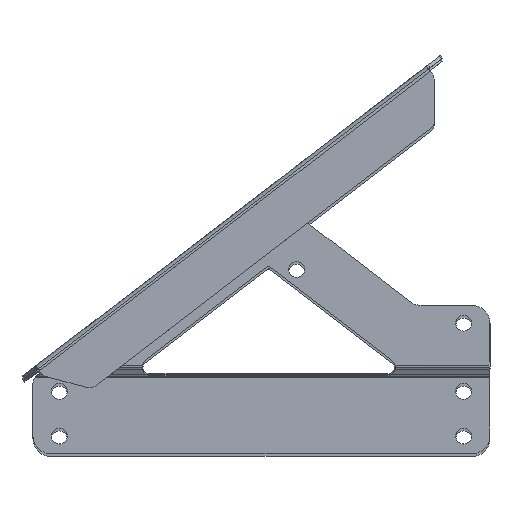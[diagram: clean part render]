
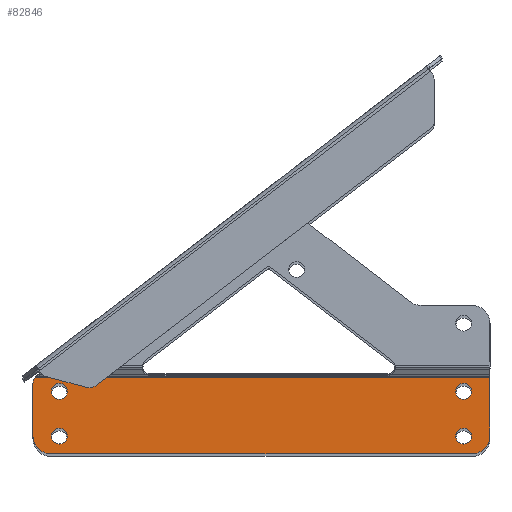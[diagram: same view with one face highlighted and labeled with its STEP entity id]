
A CAD part, top view. The second image highlights one B-rep face of the part: STEP entity #82846.
In plain terms, the highlighted planar face has unit normal (0, 0, 1) as drawn and (-0.609, 0.793, 0) by its records, which use the part's own axes.
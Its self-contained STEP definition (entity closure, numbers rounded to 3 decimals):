
#3217 = EDGE_CURVE ( 'NONE', #75387, #278631, #303798, .T. ) ;
#3917 = CARTESIAN_POINT ( 'NONE',  ( 18.177, 161.683, 158.123 ) ) ;
#4016 = CARTESIAN_POINT ( 'NONE',  ( -131.448, 46.872, 3.518 ) ) ;
#7586 = DIRECTION ( 'NONE',  ( 0.629, 0.483, 0.609 ) ) ;
#7804 = CIRCLE ( 'NONE', #271225, 10. ) ;
#8985 = EDGE_CURVE ( 'NONE', #341011, #370076, #367544, .T. ) ;
#9489 = ORIENTED_EDGE ( 'NONE', *, *, #166107, .T. ) ;
#12393 = CARTESIAN_POINT ( 'NONE',  ( 0.525, 148.138, 131.161 ) ) ;
#12731 = DIRECTION ( 'NONE',  ( 0.629, 0.483, 0.609 ) ) ;
#13067 = CARTESIAN_POINT ( 'NONE',  ( 100.825, 225.101, -33.599 ) ) ;
#14898 = AXIS2_PLACEMENT_3D ( 'NONE', #128105, #54786, #195487 ) ;
#15879 = CARTESIAN_POINT ( 'NONE',  ( 15.302, 159.477, 187.485 ) ) ;
#25945 = DIRECTION ( 'NONE',  ( 0.629, 0.483, 0.609 ) ) ;
#26621 = CARTESIAN_POINT ( 'NONE',  ( -141.735, 38.978, 35.599 ) ) ;
#28999 = ORIENTED_EDGE ( 'NONE', *, *, #363827, .F. ) ;
#31922 = AXIS2_PLACEMENT_3D ( 'NONE', #161288, #131252, #155718 ) ;
#38940 = CIRCLE ( 'NONE', #182774, 4.5 ) ;
#40007 = AXIS2_PLACEMENT_3D ( 'NONE', #268461, #240289, #326616 ) ;
#44408 = LINE ( 'NONE', #185163, #124198 ) ;
#46776 = PLANE ( 'NONE',  #49159 ) ;
#49084 = CARTESIAN_POINT ( 'NONE',  ( -123.755, 52.774, 20.847 ) ) ;
#49159 = AXIS2_PLACEMENT_3D ( 'NONE', #13067, #157524, #215593 ) ;
#54786 = DIRECTION ( 'NONE',  ( -0.609, 0.793, 0. ) ) ;
#57783 = CARTESIAN_POINT ( 'NONE',  ( -126.588, 50.601, 18.108 ) ) ;
#58706 = VECTOR ( 'NONE', #299448, 1000. ) ;
#59673 = DIRECTION ( 'NONE',  ( -0.609, 0.793, 0. ) ) ;
#61906 = VERTEX_POINT ( 'NONE', #271059 ) ;
#65069 = EDGE_LOOP ( 'NONE', ( #262059, #28999 ) ) ;
#68672 = EDGE_LOOP ( 'NONE', ( #246750, #312845, #157541, #9489, #126854, #244024, #217746 ) ) ;
#72543 = DIRECTION ( 'NONE',  ( 0.629, 0.483, 0.609 ) ) ;
#74398 = DIRECTION ( 'NONE',  ( 0.629, 0.483, 0.609 ) ) ;
#75387 = VERTEX_POINT ( 'NONE', #211605 ) ;
#78502 = CARTESIAN_POINT ( 'NONE',  ( -142.05, 38.736, 35.294 ) ) ;
#82383 = EDGE_CURVE ( 'NONE', #220760, #258483, #210971, .T. ) ;
#82635 = CIRCLE ( 'NONE', #106781, 4.5 ) ;
#82846 = ADVANCED_FACE ( 'NONE', ( #189330, #101220, #183828, #300021, #127505 ), #46776, .T. ) ;
#86619 = ORIENTED_EDGE ( 'NONE', *, *, #310702, .F. ) ;
#87730 = DIRECTION ( 'NONE',  ( 0.629, 0.483, 0.609 ) ) ;
#88758 = CIRCLE ( 'NONE', #136728, 4.5 ) ;
#93414 = CARTESIAN_POINT ( 'NONE',  ( -129.42, 48.428, 15.368 ) ) ;
#94194 = ORIENTED_EDGE ( 'NONE', *, *, #155175, .F. ) ;
#95876 = EDGE_CURVE ( 'NONE', #333122, #220760, #7804, .T. ) ;
#100285 = DIRECTION ( 'NONE',  ( 0.629, 0.483, 0.609 ) ) ;
#100783 = VERTEX_POINT ( 'NONE', #49084 ) ;
#101015 = EDGE_CURVE ( 'NONE', #214068, #108719, #193681, .T. ) ;
#101220 = FACE_BOUND ( 'NONE', #65069, .T. ) ;
#102483 = CARTESIAN_POINT ( 'NONE',  ( -133.841, 45.035, 5.383 ) ) ;
#106781 = AXIS2_PLACEMENT_3D ( 'NONE', #3917, #260864, #7586 ) ;
#108719 = VERTEX_POINT ( 'NONE', #237390 ) ;
#121421 = EDGE_LOOP ( 'NONE', ( #331917, #178109 ) ) ;
#122829 = CARTESIAN_POINT ( 'NONE',  ( 21.009, 163.856, 160.862 ) ) ;
#124198 = VECTOR ( 'NONE', #72543, 1000. ) ;
#126212 = CARTESIAN_POINT ( 'NONE',  ( 4.179, 150.941, 189.331 ) ) ;
#126854 = ORIENTED_EDGE ( 'NONE', *, *, #8985, .T. ) ;
#127505 = FACE_OUTER_BOUND ( 'NONE', #68672, .T. ) ;
#128105 = CARTESIAN_POINT ( 'NONE',  ( -138.903, 41.151, 38.338 ) ) ;
#129379 = EDGE_CURVE ( 'NONE', #108719, #214068, #82635, .T. ) ;
#131252 = DIRECTION ( 'NONE',  ( -0.609, 0.793, 0. ) ) ;
#131413 = EDGE_CURVE ( 'NONE', #218417, #61906, #257459, .T. ) ;
#136728 = AXIS2_PLACEMENT_3D ( 'NONE', #331395, #267704, #74398 ) ;
#137448 = AXIS2_PLACEMENT_3D ( 'NONE', #272750, #190244, #100285 ) ;
#140907 = VERTEX_POINT ( 'NONE', #93414 ) ;
#144105 = CARTESIAN_POINT ( 'NONE',  ( -126.588, 50.601, 18.108 ) ) ;
#147546 = CARTESIAN_POINT ( 'NONE',  ( 3.029, 150.059, 175.614 ) ) ;
#152834 = CIRCLE ( 'NONE', #14898, 4.5 ) ;
#155175 = EDGE_CURVE ( 'NONE', #311498, #210566, #88758, .T. ) ;
#155333 = CARTESIAN_POINT ( 'NONE',  ( -130.694, 47.45, 8.427 ) ) ;
#155718 = DIRECTION ( 'NONE',  ( 0.629, 0.483, 0.609 ) ) ;
#157524 = DIRECTION ( 'NONE',  ( -0.609, 0.793, 0. ) ) ;
#157541 = ORIENTED_EDGE ( 'NONE', *, *, #131413, .T. ) ;
#160300 = CARTESIAN_POINT ( 'NONE',  ( -136.071, 43.324, 41.077 ) ) ;
#161288 = CARTESIAN_POINT ( 'NONE',  ( 18.177, 161.683, 158.123 ) ) ;
#166017 = EDGE_CURVE ( 'NONE', #140907, #100783, #304212, .T. ) ;
#166107 = EDGE_CURVE ( 'NONE', #61906, #341011, #327610, .T. ) ;
#178109 = ORIENTED_EDGE ( 'NONE', *, *, #129379, .F. ) ;
#181670 = DIRECTION ( 'NONE',  ( -0.609, 0.793, 0. ) ) ;
#182774 = AXIS2_PLACEMENT_3D ( 'NONE', #144105, #59673, #25945 ) ;
#183828 = FACE_BOUND ( 'NONE', #369516, .T. ) ;
#184286 = AXIS2_PLACEMENT_3D ( 'NONE', #57783, #265808, #87730 ) ;
#185163 = CARTESIAN_POINT ( 'NONE',  ( -146.88, 35.03, 43.228 ) ) ;
#186513 = DIRECTION ( 'NONE',  ( 0.483, 0.371, -0.793 ) ) ;
#189330 = FACE_BOUND ( 'NONE', #121421, .T. ) ;
#190244 = DIRECTION ( 'NONE',  ( -0.609, 0.793, 0. ) ) ;
#193681 = CIRCLE ( 'NONE', #31922, 4.5 ) ;
#194795 = DIRECTION ( 'NONE',  ( -0.609, 0.793, 0. ) ) ;
#195487 = DIRECTION ( 'NONE',  ( 0.629, 0.483, 0.609 ) ) ;
#202058 = DIRECTION ( 'NONE',  ( 0.629, 0.483, 0.609 ) ) ;
#210566 = VERTEX_POINT ( 'NONE', #26621 ) ;
#210971 = LINE ( 'NONE', #323514, #216227 ) ;
#211605 = CARTESIAN_POINT ( 'NONE',  ( 8.693, 154.406, 181.093 ) ) ;
#214068 = VERTEX_POINT ( 'NONE', #122829 ) ;
#215593 = DIRECTION ( 'NONE',  ( 0.629, 0.483, 0.609 ) ) ;
#216227 = VECTOR ( 'NONE', #186513, 1000. ) ;
#217746 = ORIENTED_EDGE ( 'NONE', *, *, #95876, .T. ) ;
#217811 = AXIS2_PLACEMENT_3D ( 'NONE', #78502, #194795, #365493 ) ;
#218417 = VERTEX_POINT ( 'NONE', #4016 ) ;
#220760 = VERTEX_POINT ( 'NONE', #15879 ) ;
#222200 = ORIENTED_EDGE ( 'NONE', *, *, #166017, .F. ) ;
#229078 = EDGE_CURVE ( 'NONE', #210566, #311498, #152834, .T. ) ;
#233234 = CIRCLE ( 'NONE', #137448, 4.5 ) ;
#237390 = CARTESIAN_POINT ( 'NONE',  ( 15.344, 159.509, 155.383 ) ) ;
#238496 = CARTESIAN_POINT ( 'NONE',  ( -146.88, 35.03, 43.228 ) ) ;
#239475 = AXIS2_PLACEMENT_3D ( 'NONE', #155333, #181670, #12731 ) ;
#240289 = DIRECTION ( 'NONE',  ( -0.609, 0.793, 0. ) ) ;
#241198 = DIRECTION ( 'NONE',  ( -0.629, -0.483, -0.609 ) ) ;
#244024 = ORIENTED_EDGE ( 'NONE', *, *, #343968, .T. ) ;
#246750 = ORIENTED_EDGE ( 'NONE', *, *, #82383, .T. ) ;
#257459 = CIRCLE ( 'NONE', #239475, 5. ) ;
#258483 = VERTEX_POINT ( 'NONE', #325642 ) ;
#260864 = DIRECTION ( 'NONE',  ( -0.609, 0.793, 0. ) ) ;
#262059 = ORIENTED_EDGE ( 'NONE', *, *, #3217, .F. ) ;
#265808 = DIRECTION ( 'NONE',  ( -0.609, 0.793, 0. ) ) ;
#267704 = DIRECTION ( 'NONE',  ( -0.609, 0.793, 0. ) ) ;
#268461 = CARTESIAN_POINT ( 'NONE',  ( 5.861, 152.233, 178.353 ) ) ;
#271059 = CARTESIAN_POINT ( 'NONE',  ( -133.841, 45.035, 5.383 ) ) ;
#271225 = AXIS2_PLACEMENT_3D ( 'NONE', #370878, #342778, #202058 ) ;
#272750 = CARTESIAN_POINT ( 'NONE',  ( 5.861, 152.233, 178.353 ) ) ;
#278631 = VERTEX_POINT ( 'NONE', #147546 ) ;
#299448 = DIRECTION ( 'NONE',  ( -0.483, -0.371, 0.793 ) ) ;
#300021 = FACE_BOUND ( 'NONE', #324652, .T. ) ;
#303798 = CIRCLE ( 'NONE', #40007, 4.5 ) ;
#304212 = CIRCLE ( 'NONE', #184286, 4.5 ) ;
#308347 = EDGE_CURVE ( 'NONE', #258483, #218417, #334948, .T. ) ;
#310702 = EDGE_CURVE ( 'NONE', #100783, #140907, #38940, .T. ) ;
#311498 = VERTEX_POINT ( 'NONE', #160300 ) ;
#312845 = ORIENTED_EDGE ( 'NONE', *, *, #308347, .T. ) ;
#322531 = CARTESIAN_POINT ( 'NONE',  ( -148.344, 33.907, 29.207 ) ) ;
#323497 = ORIENTED_EDGE ( 'NONE', *, *, #229078, .F. ) ;
#323514 = CARTESIAN_POINT ( 'NONE',  ( 15.302, 159.477, 187.485 ) ) ;
#324652 = EDGE_LOOP ( 'NONE', ( #94194, #323497 ) ) ;
#325642 = CARTESIAN_POINT ( 'NONE',  ( 31.407, 171.835, 161.03 ) ) ;
#326616 = DIRECTION ( 'NONE',  ( 0.629, 0.483, 0.609 ) ) ;
#327610 = LINE ( 'NONE', #102483, #58706 ) ;
#331395 = CARTESIAN_POINT ( 'NONE',  ( -138.903, 41.151, 38.338 ) ) ;
#331917 = ORIENTED_EDGE ( 'NONE', *, *, #101015, .F. ) ;
#333122 = VERTEX_POINT ( 'NONE', #126212 ) ;
#334948 = LINE ( 'NONE', #12393, #367288 ) ;
#341011 = VERTEX_POINT ( 'NONE', #322531 ) ;
#342778 = DIRECTION ( 'NONE',  ( -0.609, 0.793, 0. ) ) ;
#343968 = EDGE_CURVE ( 'NONE', #370076, #333122, #44408, .T. ) ;
#363827 = EDGE_CURVE ( 'NONE', #278631, #75387, #233234, .T. ) ;
#365493 = DIRECTION ( 'NONE',  ( 0.629, 0.483, 0.609 ) ) ;
#367288 = VECTOR ( 'NONE', #241198, 1000. ) ;
#367544 = CIRCLE ( 'NONE', #217811, 10. ) ;
#369516 = EDGE_LOOP ( 'NONE', ( #86619, #222200 ) ) ;
#370076 = VERTEX_POINT ( 'NONE', #238496 ) ;
#370878 = CARTESIAN_POINT ( 'NONE',  ( 9.008, 154.647, 181.397 ) ) ;
